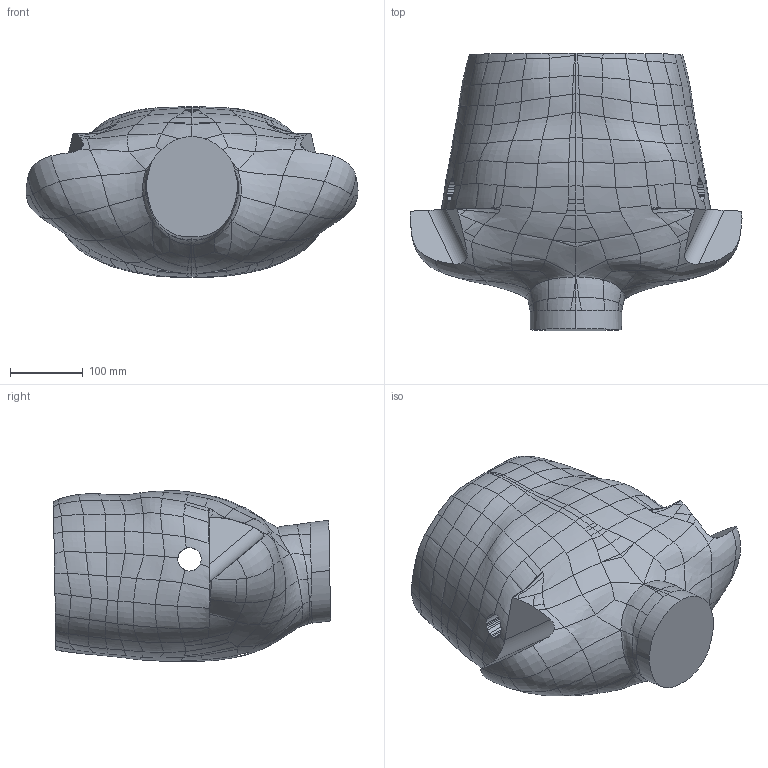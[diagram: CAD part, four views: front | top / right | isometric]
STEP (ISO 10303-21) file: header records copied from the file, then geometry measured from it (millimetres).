
FILE_DESCRIPTION(/* description */ (''),/* implementation_level */ '2;1');
FILE_NAME(/* name */ 'torso_aug_2_2005 (C).stp',/* time_stamp */ '2024-05-09T10:13:31-04:00',/* author */ ('Jim.Clevenger'),/* organization */ ('NHTSA/VRTC'),/* preprocessor_version */ 'ST-DEVELOPER v20',/* originating_system */ 'Autodesk Inventor 2024',/* authorisation */ '');
FILE_SCHEMA (('AUTOMOTIVE_DESIGN { 1 0 10303 214 3 1 1 }'));
Products named in the file (1): torso_aug_2_2005 (A)
Bounding box: 457.78 x 382.24 x 235.28 mm (x, y, z)
Volume: 20415407.4 mm3; surface area: 461629.4 mm2
Topology: 1 solids, 1 shells, 436 faces, 1053 edges, 608 vertices
Faces by surface type: bspline 425, plane 7, cylinder 4
Entity records: 96631 total; most frequent: CARTESIAN_POINT 89921, ORIENTED_EDGE 2088, EDGE_CURVE 1044, B_SPLINE_CURVE_WITH_KNOTS 999, VERTEX_POINT 608, FACE_OUTER_BOUND 436, EDGE_LOOP 436, ADVANCED_FACE 436
